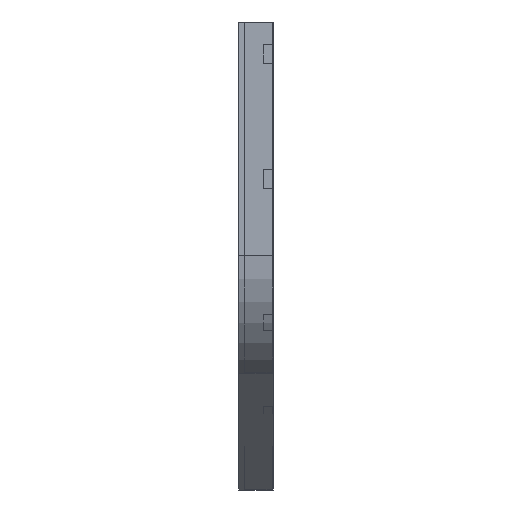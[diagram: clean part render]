
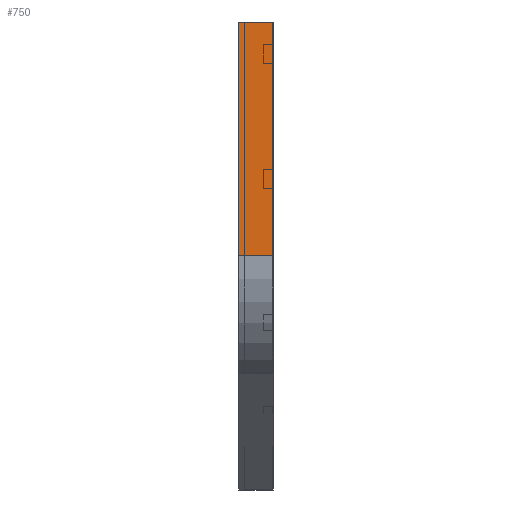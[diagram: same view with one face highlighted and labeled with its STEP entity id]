
A CAD part, left-side view. The second image highlights one B-rep face of the part: STEP entity #750.
In plain terms, the highlighted planar face has unit normal (-1, 0, 0).
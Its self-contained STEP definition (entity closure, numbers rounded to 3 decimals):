
#49 = CARTESIAN_POINT ( 'NONE',  ( 0., 75., 0. ) ) ;
#290 = LINE ( 'NONE', #1089, #980 ) ;
#305 = DIRECTION ( 'NONE',  ( 1., 0., 0. ) ) ;
#354 = ORIENTED_EDGE ( 'NONE', *, *, #373, .F. ) ;
#362 = VECTOR ( 'NONE', #1818, 1000. ) ;
#372 = CARTESIAN_POINT ( 'NONE',  ( 0., 75., -511.88 ) ) ;
#373 = EDGE_CURVE ( 'NONE', #450, #1191, #563, .T. ) ;
#405 = CARTESIAN_POINT ( 'NONE',  ( 0., 75., 0. ) ) ;
#450 = VERTEX_POINT ( 'NONE', #1060 ) ;
#563 = LINE ( 'NONE', #1528, #682 ) ;
#633 = ORIENTED_EDGE ( 'NONE', *, *, #876, .T. ) ;
#682 = VECTOR ( 'NONE', #2008, 1000. ) ;
#689 = DIRECTION ( 'NONE',  ( 0., -1., 0. ) ) ;
#750 = ADVANCED_FACE ( 'NONE', ( #1927 ), #773, .F. ) ;
#773 = PLANE ( 'NONE',  #1992 ) ;
#836 = CARTESIAN_POINT ( 'NONE',  ( 0., 0., -511.88 ) ) ;
#852 = EDGE_CURVE ( 'NONE', #1135, #1191, #1143, .T. ) ;
#876 = EDGE_CURVE ( 'NONE', #1670, #1135, #1181, .T. ) ;
#980 = VECTOR ( 'NONE', #1055, 1000. ) ;
#992 = ORIENTED_EDGE ( 'NONE', *, *, #852, .T. ) ;
#1055 = DIRECTION ( 'NONE',  ( 0., -1., 0. ) ) ;
#1060 = CARTESIAN_POINT ( 'NONE',  ( 0., 0., 0. ) ) ;
#1089 = CARTESIAN_POINT ( 'NONE',  ( 0., 0., 0. ) ) ;
#1135 = VERTEX_POINT ( 'NONE', #372 ) ;
#1143 = LINE ( 'NONE', #836, #1791 ) ;
#1152 = CARTESIAN_POINT ( 'NONE',  ( 0., 0., -511.88 ) ) ;
#1181 = LINE ( 'NONE', #49, #362 ) ;
#1191 = VERTEX_POINT ( 'NONE', #1152 ) ;
#1465 = EDGE_LOOP ( 'NONE', ( #354, #1738, #633, #992 ) ) ;
#1528 = CARTESIAN_POINT ( 'NONE',  ( 0., 0., 0. ) ) ;
#1556 = CARTESIAN_POINT ( 'NONE',  ( 0., 0., 0. ) ) ;
#1638 = EDGE_CURVE ( 'NONE', #1670, #450, #290, .T. ) ;
#1670 = VERTEX_POINT ( 'NONE', #405 ) ;
#1738 = ORIENTED_EDGE ( 'NONE', *, *, #1638, .F. ) ;
#1791 = VECTOR ( 'NONE', #689, 1000. ) ;
#1818 = DIRECTION ( 'NONE',  ( 0., 0., -1. ) ) ;
#1927 = FACE_OUTER_BOUND ( 'NONE', #1465, .T. ) ;
#1941 = DIRECTION ( 'NONE',  ( 0., 0., -1. ) ) ;
#1992 = AXIS2_PLACEMENT_3D ( 'NONE', #1556, #305, #1941 ) ;
#2008 = DIRECTION ( 'NONE',  ( 0., 0., -1. ) ) ;
